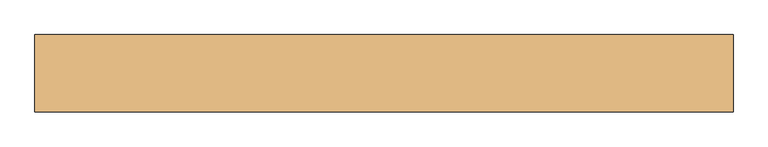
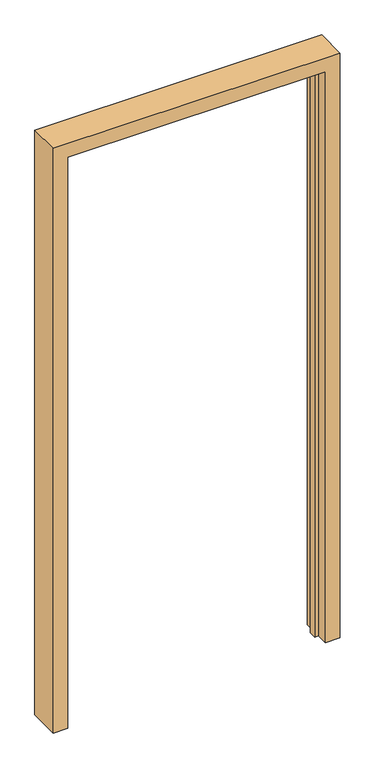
"""IFC4 building model written with IfcOpenShell, lengths in millimetres: door geometry, Door_Steel_Republic_Single-DoubleRabbet-Equal : ByType."""

from ifc_helpers import new_model, si_unit, origin, place, context, project, spatial, faceted_brep, source, transform, mapped, element, save


def door_ec6a2b26(model_context):
    return source(origin(), model_context, "Body", "Brep", [
        faceted_brep([(2110.2103321, -797.6410438, 0.0), (2169.8299674, -797.6410438, 0.0), (2169.8299674, -927.6410438, 0.0), (2110.2103321, -927.6410438, 0.0), (2110.2103321, -878.4285438, 0.0), (2094.3353321, -878.4285438, 0.0), (2094.3353321, -846.8535438, 0.0), (2110.2103321, -846.8535438, 0.0), (2110.2103321, -797.6410438, 2471.0), (1053.9710615, -797.6410438, 2471.0), (1053.9710615, -797.6410438, 0.0), (994.3514261, -797.6410438, 0.0), (994.3514261, -797.6410438, 2530.6196353), (2169.8299674, -797.6410438, 2530.6196353), (2169.8299674, -927.6410438, 2530.6196353), (994.3514261, -927.6410438, 2530.6196353), (994.3514261, -927.6410438, 0.0), (1053.9710615, -927.6410438, 0.0), (1053.9710615, -927.6410438, 2471.0), (2110.2103321, -927.6410438, 2471.0), (2110.2103321, -878.4285438, 2471.0), (1053.9710615, -878.4285438, 2471.0), (1053.9710615, -878.4285438, 0.0), (1069.8460615, -878.4285438, 0.0), (1069.8460615, -878.4285438, 2455.125), (2094.3353321, -878.4285438, 2455.125), (2094.3353321, -846.8535438, 2455.125), (1069.8460615, -846.8535438, 2455.125), (1069.8460615, -846.8535438, 0.0), (1053.9710615, -846.8535438, 0.0), (1053.9710615, -846.8535438, 2471.0), (2110.2103321, -846.8535438, 2471.0)], [[[0, 1, 2, 3, 4, 5, 6, 7]], [[1, 0, 8, 9, 10, 11, 12, 13]], [[2, 1, 13, 14]], [[3, 2, 14, 15, 16, 17, 18, 19]], [[4, 3, 19, 20]], [[5, 4, 20, 21, 22, 23, 24, 25]], [[6, 5, 25, 26]], [[7, 6, 26, 27, 28, 29, 30, 31]], [[0, 7, 31, 8]], [[9, 30, 29, 10]], [[10, 29, 28, 23, 22, 17, 16, 11]], [[15, 12, 11, 16]], [[21, 18, 17, 22]], [[27, 24, 23, 28]], [[14, 13, 12, 15]], [[20, 19, 18, 21]], [[26, 25, 24, 27]], [[8, 31, 30, 9]]]),
    ])


if __name__ == "__main__":
    model = new_model("IFC4")
    model_context = context("Model", 3, world=origin())
    ifc_project = project(units=[si_unit("LENGTHUNIT", "METRE", prefix="MILLI")], contexts=[model_context])
    site = spatial("IfcSite", under=ifc_project)
    building = spatial("IfcBuilding", under=site)
    placement = place(None, origin())
    door_shape = door_ec6a2b26(model_context)
    element("IfcDoor", 1, ObjectType="Door_Steel_Republic_Single-DoubleRabbet-Equal : ByType", at=placement, inside=building, context=model_context, shape_type="MappedRepresentation", body=[
        mapped(door_shape, transform((0.0, 0.0, 0.0), x_axis=(1.0, 0.0, 0.0), y_axis=(0.0, 1.0, 0.0), z_axis=(0.0, 0.0, 1.0))),
    ])
    save(model, "model.ifc")
